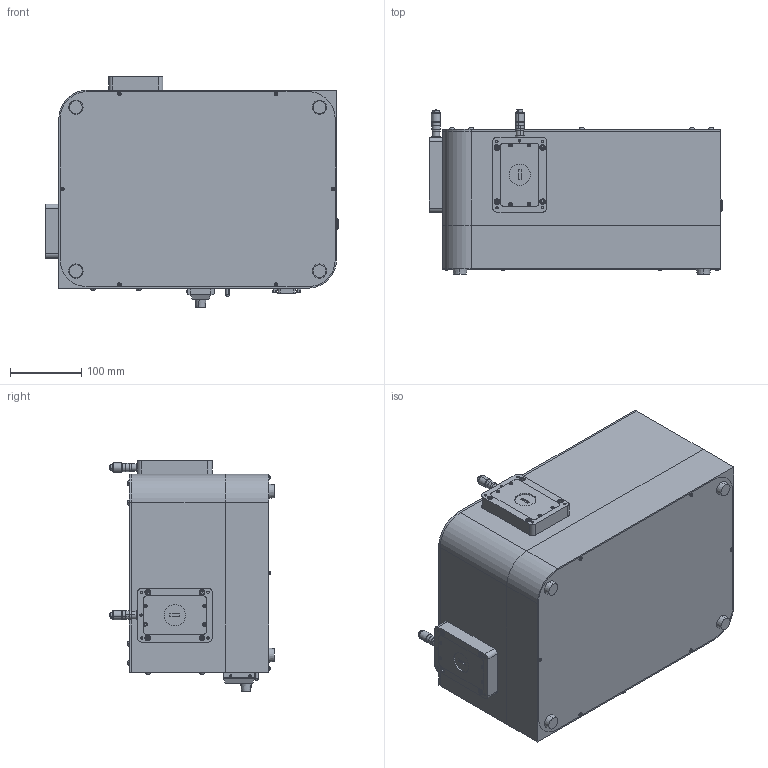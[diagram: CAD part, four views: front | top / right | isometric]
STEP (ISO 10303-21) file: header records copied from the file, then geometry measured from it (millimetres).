
FILE_DESCRIPTION (( 'STEP AP203' ), '1' );
FILE_NAME ('7IMS3012出入垂直手动单色仪.STEP', '2021-01-12T06:33:37', ( '' ), ( '' ), 'SwSTEP 2.0', 'SolidWorks 2018', '' );
FILE_SCHEMA (( 'CONFIG_CONTROL_DESIGN' ));
Length unit declared in the file: millimetre
Products named in the file (1): 7IMS3012出入垂直手动单色仪
Bounding box: 412 x 230.89 x 324 mm (x, y, z)
Surface area: 556468.6 mm2 (no closed solid volume)
Topology: 0 solids, 120 shells, 644 faces, 2217 edges, 1653 vertices
Faces by surface type: plane 327, cylinder 185, cone 58, sphere 42, torus 30, bspline 2
Entity records: 24509 total; most frequent: CARTESIAN_POINT 4900, DIRECTION 4421, ORIENTED_EDGE 3235, EDGE_CURVE 2203, VERTEX_POINT 1653, AXIS2_PLACEMENT_3D 1630, VECTOR 1161, LINE 1161
